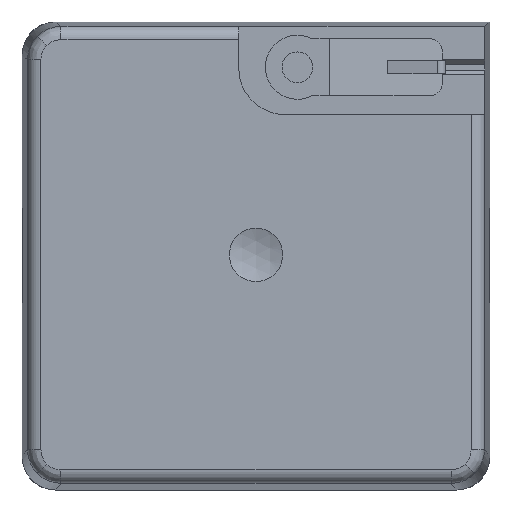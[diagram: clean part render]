
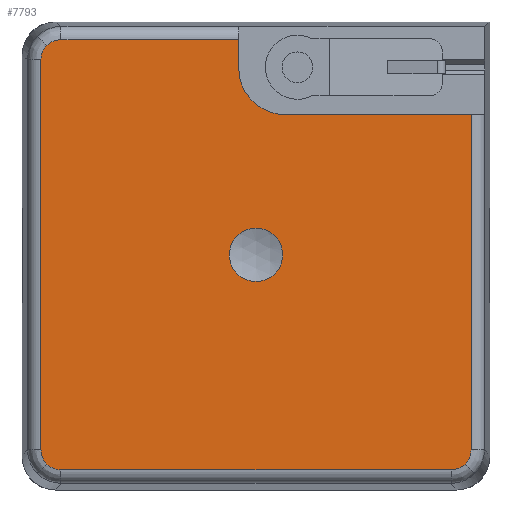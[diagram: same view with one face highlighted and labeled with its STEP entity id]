
A CAD part, top view. The second image highlights one B-rep face of the part: STEP entity #7793.
In plain terms, the highlighted planar face has unit normal (0, 0, 1).
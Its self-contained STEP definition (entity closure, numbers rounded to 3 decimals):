
#79=(
BOUNDED_CURVE()
B_SPLINE_CURVE(3,(#11859,#11860,#11861,#11862,#11863,#11864),
 .UNSPECIFIED.,.F.,.F.)
B_SPLINE_CURVE_WITH_KNOTS((4,2,4),(5.498,5.891,6.283),
 .UNSPECIFIED.)
CURVE()
GEOMETRIC_REPRESENTATION_ITEM()
RATIONAL_B_SPLINE_CURVE((1.,1.,1.,1.,1.,1.))
REPRESENTATION_ITEM('')
);
#80=(
BOUNDED_CURVE()
B_SPLINE_CURVE(3,(#11866,#11867,#11868,#11869,#11870,#11871),
 .UNSPECIFIED.,.F.,.F.)
B_SPLINE_CURVE_WITH_KNOTS((4,2,4),(0.,0.393,
0.785),.UNSPECIFIED.)
CURVE()
GEOMETRIC_REPRESENTATION_ITEM()
RATIONAL_B_SPLINE_CURVE((1.,1.,1.,1.,1.,1.))
REPRESENTATION_ITEM('')
);
#81=(
BOUNDED_CURVE()
B_SPLINE_CURVE(3,(#11874,#11875,#11876,#11877,#11878,#11879),
 .UNSPECIFIED.,.F.,.F.)
B_SPLINE_CURVE_WITH_KNOTS((4,2,4),(5.498,5.891,6.283),
 .UNSPECIFIED.)
CURVE()
GEOMETRIC_REPRESENTATION_ITEM()
RATIONAL_B_SPLINE_CURVE((1.,1.,1.,1.,1.,1.))
REPRESENTATION_ITEM('')
);
#82=(
BOUNDED_CURVE()
B_SPLINE_CURVE(3,(#11881,#11882,#11883,#11884,#11885,#11886),
 .UNSPECIFIED.,.F.,.F.)
B_SPLINE_CURVE_WITH_KNOTS((4,2,4),(0.,0.393,
0.785),.UNSPECIFIED.)
CURVE()
GEOMETRIC_REPRESENTATION_ITEM()
RATIONAL_B_SPLINE_CURVE((1.,1.,1.,1.,1.,1.))
REPRESENTATION_ITEM('')
);
#83=(
BOUNDED_CURVE()
B_SPLINE_CURVE(3,(#11890,#11891,#11892,#11893,#11894,#11895),
 .UNSPECIFIED.,.F.,.F.)
B_SPLINE_CURVE_WITH_KNOTS((4,2,4),(5.498,5.891,6.283),
 .UNSPECIFIED.)
CURVE()
GEOMETRIC_REPRESENTATION_ITEM()
RATIONAL_B_SPLINE_CURVE((1.,1.,1.,1.,1.,1.))
REPRESENTATION_ITEM('')
);
#84=(
BOUNDED_CURVE()
B_SPLINE_CURVE(3,(#11897,#11898,#11899,#11900,#11901,#11902),
 .UNSPECIFIED.,.F.,.F.)
B_SPLINE_CURVE_WITH_KNOTS((4,2,4),(0.,0.393,0.785),
 .UNSPECIFIED.)
CURVE()
GEOMETRIC_REPRESENTATION_ITEM()
RATIONAL_B_SPLINE_CURVE((1.,1.,1.,1.,1.,1.))
REPRESENTATION_ITEM('')
);
#135=FACE_BOUND('',#2577,.T.);
#205=PLANE('',#8344);
#541=LINE('',#11659,#1291);
#544=LINE('',#11668,#1294);
#594=LINE('',#11788,#1344);
#596=LINE('',#11872,#1346);
#597=LINE('',#11888,#1347);
#598=LINE('',#11903,#1348);
#1291=VECTOR('',#9201,1000.);
#1294=VECTOR('',#9210,1000.);
#1344=VECTOR('',#9324,1000.);
#1346=VECTOR('',#9332,1000.);
#1347=VECTOR('',#9333,1000.);
#1348=VECTOR('',#9334,1000.);
#2154=FACE_OUTER_BOUND('',#2576,.T.);
#2576=EDGE_LOOP('',(#5579,#5580,#5581,#5582,#5583,#5584,#5585,#5586,#5587,
#5588,#5589,#5590,#5591));
#2577=EDGE_LOOP('',(#5592));
#3019=CIRCLE('',#8313,3.5);
#3027=CIRCLE('',#8345,2.);
#3403=VERTEX_POINT('',#11657);
#3404=VERTEX_POINT('',#11658);
#3406=VERTEX_POINT('',#11665);
#3407=VERTEX_POINT('',#11667);
#3445=VERTEX_POINT('',#11786);
#3448=VERTEX_POINT('',#11857);
#3449=VERTEX_POINT('',#11858);
#3450=VERTEX_POINT('',#11865);
#3451=VERTEX_POINT('',#11873);
#3452=VERTEX_POINT('',#11880);
#3453=VERTEX_POINT('',#11887);
#3454=VERTEX_POINT('',#11889);
#3455=VERTEX_POINT('',#11896);
#3456=VERTEX_POINT('',#11904);
#4218=EDGE_CURVE('',#3403,#3404,#541,.T.);
#4223=EDGE_CURVE('',#3406,#3407,#544,.T.);
#4238=EDGE_CURVE('',#3407,#3403,#3019,.T.);
#4285=EDGE_CURVE('',#3406,#3445,#594,.T.);
#4289=EDGE_CURVE('',#3448,#3449,#79,.T.);
#4290=EDGE_CURVE('',#3449,#3450,#80,.T.);
#4291=EDGE_CURVE('',#3450,#3404,#596,.T.);
#4292=EDGE_CURVE('',#3445,#3451,#81,.T.);
#4293=EDGE_CURVE('',#3451,#3452,#82,.T.);
#4294=EDGE_CURVE('',#3452,#3453,#597,.T.);
#4295=EDGE_CURVE('',#3453,#3454,#83,.T.);
#4296=EDGE_CURVE('',#3454,#3455,#84,.T.);
#4297=EDGE_CURVE('',#3455,#3448,#598,.T.);
#4298=EDGE_CURVE('',#3456,#3456,#3027,.T.);
#5579=ORIENTED_EDGE('',*,*,#4289,.T.);
#5580=ORIENTED_EDGE('',*,*,#4290,.T.);
#5581=ORIENTED_EDGE('',*,*,#4291,.T.);
#5582=ORIENTED_EDGE('',*,*,#4218,.F.);
#5583=ORIENTED_EDGE('',*,*,#4238,.F.);
#5584=ORIENTED_EDGE('',*,*,#4223,.F.);
#5585=ORIENTED_EDGE('',*,*,#4285,.T.);
#5586=ORIENTED_EDGE('',*,*,#4292,.T.);
#5587=ORIENTED_EDGE('',*,*,#4293,.T.);
#5588=ORIENTED_EDGE('',*,*,#4294,.T.);
#5589=ORIENTED_EDGE('',*,*,#4295,.T.);
#5590=ORIENTED_EDGE('',*,*,#4296,.T.);
#5591=ORIENTED_EDGE('',*,*,#4297,.T.);
#5592=ORIENTED_EDGE('',*,*,#4298,.F.);
#7793=ADVANCED_FACE('',(#2154,#135),#205,.T.);
#8313=AXIS2_PLACEMENT_3D('',#11696,#9231,#9232);
#8344=AXIS2_PLACEMENT_3D('',#11856,#9330,#9331);
#8345=AXIS2_PLACEMENT_3D('',#11905,#9335,#9336);
#9201=DIRECTION('',(0.,1.,0.));
#9210=DIRECTION('',(1.,0.,0.));
#9231=DIRECTION('center_axis',(0.,0.,1.));
#9232=DIRECTION('ref_axis',(1.,0.,0.));
#9324=DIRECTION('',(0.,-1.,0.));
#9330=DIRECTION('center_axis',(0.,0.,1.));
#9331=DIRECTION('ref_axis',(1.,0.,0.));
#9332=DIRECTION('',(-1.,0.,0.));
#9333=DIRECTION('',(1.,0.,0.));
#9334=DIRECTION('',(0.,1.,0.));
#9335=DIRECTION('center_axis',(0.,0.,1.));
#9336=DIRECTION('ref_axis',(1.,0.,0.));
#11657=CARTESIAN_POINT('',(-10.5,2.201,52.05));
#11658=CARTESIAN_POINT('',(-10.5,16.108,52.05));
#11659=CARTESIAN_POINT('',(-10.5,2.201,52.05));
#11665=CARTESIAN_POINT('',(-16.108,-1.299,52.05));
#11667=CARTESIAN_POINT('',(-14.,-1.299,52.05));
#11668=CARTESIAN_POINT('',(-17.501,-1.299,52.05));
#11696=CARTESIAN_POINT('Origin',(-14.,2.201,52.05));
#11786=CARTESIAN_POINT('',(-16.108,-14.608,52.05));
#11788=CARTESIAN_POINT('',(-16.108,-17.1,52.05));
#11856=CARTESIAN_POINT('Origin',(17.1,-17.1,52.05));
#11857=CARTESIAN_POINT('',(16.108,14.608,52.05));
#11858=CARTESIAN_POINT('',(15.669,15.669,52.05));
#11859=CARTESIAN_POINT('Ctrl Pts',(16.108,14.608,52.05));
#11860=CARTESIAN_POINT('Ctrl Pts',(16.108,14.805,52.05));
#11861=CARTESIAN_POINT('Ctrl Pts',(16.069,15.001,52.05));
#11862=CARTESIAN_POINT('Ctrl Pts',(15.919,15.364,52.05));
#11863=CARTESIAN_POINT('Ctrl Pts',(15.808,15.53,52.05));
#11864=CARTESIAN_POINT('Ctrl Pts',(15.669,15.669,52.05));
#11865=CARTESIAN_POINT('',(14.608,16.108,52.05));
#11866=CARTESIAN_POINT('Ctrl Pts',(15.669,15.669,52.05));
#11867=CARTESIAN_POINT('Ctrl Pts',(15.53,15.808,52.05));
#11868=CARTESIAN_POINT('Ctrl Pts',(15.364,15.919,52.05));
#11869=CARTESIAN_POINT('Ctrl Pts',(15.001,16.069,52.05));
#11870=CARTESIAN_POINT('Ctrl Pts',(14.805,16.108,52.05));
#11871=CARTESIAN_POINT('Ctrl Pts',(14.608,16.108,52.05));
#11872=CARTESIAN_POINT('',(17.1,16.108,52.05));
#11873=CARTESIAN_POINT('',(-15.669,-15.669,52.05));
#11874=CARTESIAN_POINT('Ctrl Pts',(-16.108,-14.608,
52.05));
#11875=CARTESIAN_POINT('Ctrl Pts',(-16.108,-14.805,
52.05));
#11876=CARTESIAN_POINT('Ctrl Pts',(-16.069,-15.001,
52.05));
#11877=CARTESIAN_POINT('Ctrl Pts',(-15.919,-15.364,
52.05));
#11878=CARTESIAN_POINT('Ctrl Pts',(-15.808,-15.53,
52.05));
#11879=CARTESIAN_POINT('Ctrl Pts',(-15.669,-15.669,
52.05));
#11880=CARTESIAN_POINT('',(-14.608,-16.108,52.05));
#11881=CARTESIAN_POINT('Ctrl Pts',(-15.669,-15.669,
52.05));
#11882=CARTESIAN_POINT('Ctrl Pts',(-15.53,-15.808,
52.05));
#11883=CARTESIAN_POINT('Ctrl Pts',(-15.364,-15.919,
52.05));
#11884=CARTESIAN_POINT('Ctrl Pts',(-15.001,-16.069,
52.05));
#11885=CARTESIAN_POINT('Ctrl Pts',(-14.805,-16.108,
52.05));
#11886=CARTESIAN_POINT('Ctrl Pts',(-14.608,-16.108,
52.05));
#11887=CARTESIAN_POINT('',(14.608,-16.108,52.05));
#11888=CARTESIAN_POINT('',(17.1,-16.108,52.05));
#11889=CARTESIAN_POINT('',(15.669,-15.669,52.05));
#11890=CARTESIAN_POINT('Ctrl Pts',(14.608,-16.108,52.05));
#11891=CARTESIAN_POINT('Ctrl Pts',(14.805,-16.108,52.05));
#11892=CARTESIAN_POINT('Ctrl Pts',(15.001,-16.069,52.05));
#11893=CARTESIAN_POINT('Ctrl Pts',(15.364,-15.919,52.05));
#11894=CARTESIAN_POINT('Ctrl Pts',(15.53,-15.808,52.05));
#11895=CARTESIAN_POINT('Ctrl Pts',(15.669,-15.669,52.05));
#11896=CARTESIAN_POINT('',(16.108,-14.608,52.05));
#11897=CARTESIAN_POINT('Ctrl Pts',(15.669,-15.669,52.05));
#11898=CARTESIAN_POINT('Ctrl Pts',(15.808,-15.53,52.05));
#11899=CARTESIAN_POINT('Ctrl Pts',(15.919,-15.364,52.05));
#11900=CARTESIAN_POINT('Ctrl Pts',(16.069,-15.001,52.05));
#11901=CARTESIAN_POINT('Ctrl Pts',(16.108,-14.805,52.05));
#11902=CARTESIAN_POINT('Ctrl Pts',(16.108,-14.608,52.05));
#11903=CARTESIAN_POINT('',(16.108,-17.1,52.05));
#11904=CARTESIAN_POINT('',(2.,0.,52.05));
#11905=CARTESIAN_POINT('Origin',(0.,0.,52.05));
